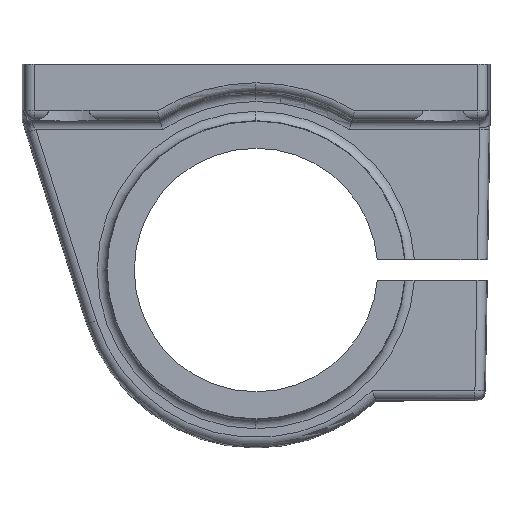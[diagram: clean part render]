
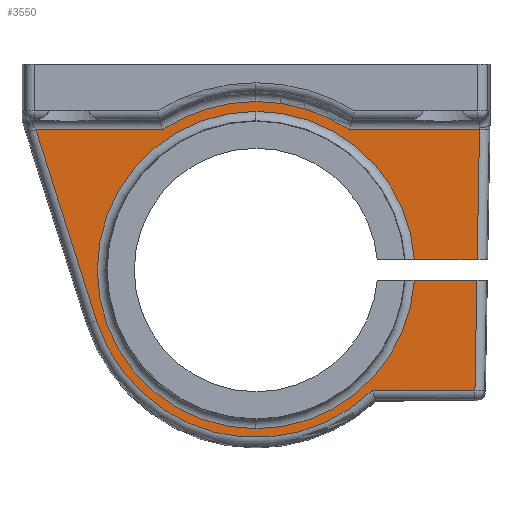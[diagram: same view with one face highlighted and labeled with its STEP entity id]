
A CAD part, front view. The second image highlights one B-rep face of the part: STEP entity #3550.
In plain terms, the highlighted planar face has unit normal (0, -1, 0).
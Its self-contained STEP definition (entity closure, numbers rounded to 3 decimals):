
#30 = ORIENTED_EDGE ( 'NONE', *, *, #1758, .T. ) ;
#142 = VERTEX_POINT ( 'NONE', #3945 ) ;
#166 = VERTEX_POINT ( 'NONE', #4265 ) ;
#184 = VERTEX_POINT ( 'NONE', #2930 ) ;
#207 = VECTOR ( 'NONE', #1421, 1000. ) ;
#218 = DIRECTION ( 'NONE',  ( 1., 0., 0. ) ) ;
#248 = ORIENTED_EDGE ( 'NONE', *, *, #1394, .T. ) ;
#355 = AXIS2_PLACEMENT_3D ( 'NONE', #3927, #1692, #1638 ) ;
#395 = ORIENTED_EDGE ( 'NONE', *, *, #2105, .T. ) ;
#410 = CARTESIAN_POINT ( 'NONE',  ( 0., -7.5, -20.5 ) ) ;
#412 = VERTEX_POINT ( 'NONE', #2650 ) ;
#422 = VECTOR ( 'NONE', #3233, 1000. ) ;
#429 = ORIENTED_EDGE ( 'NONE', *, *, #945, .T. ) ;
#466 = DIRECTION ( 'NONE',  ( 0., 1., 0. ) ) ;
#504 = CARTESIAN_POINT ( 'NONE',  ( 0., -7.5, -2.5 ) ) ;
#538 = EDGE_CURVE ( 'NONE', #184, #4074, #2052, .T. ) ;
#609 = CARTESIAN_POINT ( 'NONE',  ( 0., -7.5, -19.425 ) ) ;
#640 = LINE ( 'NONE', #1730, #207 ) ;
#648 = CARTESIAN_POINT ( 'NONE',  ( 0., -7.5, -20.5 ) ) ;
#748 = ORIENTED_EDGE ( 'NONE', *, *, #1121, .T. ) ;
#820 = CIRCLE ( 'NONE', #1132, 18. ) ;
#824 = VECTOR ( 'NONE', #4470, 1000. ) ;
#849 = FACE_OUTER_BOUND ( 'NONE', #2222, .T. ) ;
#890 = AXIS2_PLACEMENT_3D ( 'NONE', #410, #3044, #4570 ) ;
#945 = EDGE_CURVE ( 'NONE', #4074, #2839, #3477, .T. ) ;
#1067 = CARTESIAN_POINT ( 'NONE',  ( 9.95, -7.5, -5.5 ) ) ;
#1089 = EDGE_CURVE ( 'NONE', #1634, #4852, #4829, .T. ) ;
#1121 = EDGE_CURVE ( 'NONE', #2971, #184, #3243, .T. ) ;
#1132 = AXIS2_PLACEMENT_3D ( 'NONE', #2578, #2204, #4866 ) ;
#1180 = LINE ( 'NONE', #2672, #3425 ) ;
#1202 = VECTOR ( 'NONE', #1455, 1000. ) ;
#1212 = CARTESIAN_POINT ( 'NONE',  ( 0., -7.5, -20.5 ) ) ;
#1219 = EDGE_CURVE ( 'NONE', #3187, #2971, #2772, .T. ) ;
#1267 = CARTESIAN_POINT ( 'NONE',  ( 10.247, -7.5, -5.5 ) ) ;
#1283 = DIRECTION ( 'NONE',  ( 0., 1., 0. ) ) ;
#1321 = DIRECTION ( 'NONE',  ( -1., 0., 0. ) ) ;
#1394 = EDGE_CURVE ( 'NONE', #412, #2225, #3348, .T. ) ;
#1421 = DIRECTION ( 'NONE',  ( -1., 0., 0. ) ) ;
#1455 = DIRECTION ( 'NONE',  ( 1., 0., 0. ) ) ;
#1523 = EDGE_CURVE ( 'NONE', #2839, #1634, #820, .T. ) ;
#1566 = ORIENTED_EDGE ( 'NONE', *, *, #4409, .T. ) ;
#1634 = VERTEX_POINT ( 'NONE', #504 ) ;
#1638 = DIRECTION ( 'NONE',  ( 0., 0., 1. ) ) ;
#1649 = ORIENTED_EDGE ( 'NONE', *, *, #538, .T. ) ;
#1679 = CARTESIAN_POINT ( 'NONE',  ( 0., -7.5, -20.5 ) ) ;
#1692 = DIRECTION ( 'NONE',  ( 0., 1., 0. ) ) ;
#1716 = DIRECTION ( 'NONE',  ( 0., -1., 0. ) ) ;
#1730 = CARTESIAN_POINT ( 'NONE',  ( -24.859, -7.5, -5.5 ) ) ;
#1758 = EDGE_CURVE ( 'NONE', #4251, #3668, #1180, .T. ) ;
#1783 = CARTESIAN_POINT ( 'NONE',  ( 24.348, -7.5, -33.386 ) ) ;
#1813 = EDGE_CURVE ( 'NONE', #142, #166, #2214, .T. ) ;
#1832 = CIRCLE ( 'NONE', #3578, 17.886 ) ;
#1886 = CARTESIAN_POINT ( 'NONE',  ( 23.877, -7.5, -5.055 ) ) ;
#1898 = VECTOR ( 'NONE', #3485, 1000. ) ;
#1986 = AXIS2_PLACEMENT_3D ( 'NONE', #1679, #1283, #3517 ) ;
#2052 = LINE ( 'NONE', #3560, #422 ) ;
#2105 = EDGE_CURVE ( 'NONE', #2225, #4307, #3462, .T. ) ;
#2114 = DIRECTION ( 'NONE',  ( 0., -1., 0. ) ) ;
#2134 = CIRCLE ( 'NONE', #2213, 16.948 ) ;
#2204 = DIRECTION ( 'NONE',  ( 0., -1., 0. ) ) ;
#2213 = AXIS2_PLACEMENT_3D ( 'NONE', #1212, #466, #3498 ) ;
#2214 = CIRCLE ( 'NONE', #1986, 16.948 ) ;
#2222 = EDGE_LOOP ( 'NONE', ( #3395, #2928, #4188, #748, #1649, #429, #2986, #2613, #1566, #30, #2794, #248, #395, #4558 ) ) ;
#2225 = VERTEX_POINT ( 'NONE', #4656 ) ;
#2445 = VECTOR ( 'NONE', #1321, 1000. ) ;
#2510 = DIRECTION ( 'NONE',  ( 0., 0., 1. ) ) ;
#2578 = CARTESIAN_POINT ( 'NONE',  ( 0., -7.5, -20.5 ) ) ;
#2609 = CARTESIAN_POINT ( 'NONE',  ( 0., -7.5, -21.575 ) ) ;
#2613 = ORIENTED_EDGE ( 'NONE', *, *, #1089, .T. ) ;
#2650 = CARTESIAN_POINT ( 'NONE',  ( 12.404, -7.5, -33.386 ) ) ;
#2672 = CARTESIAN_POINT ( 'NONE',  ( -17.051, -7.5, -25.902 ) ) ;
#2690 = EDGE_CURVE ( 'NONE', #3668, #412, #1832, .T. ) ;
#2764 = PLANE ( 'NONE',  #355 ) ;
#2772 = CIRCLE ( 'NONE', #890, 16.948 ) ;
#2794 = ORIENTED_EDGE ( 'NONE', *, *, #2690, .T. ) ;
#2811 = CARTESIAN_POINT ( 'NONE',  ( 23.588, -7.5, -21.575 ) ) ;
#2839 = VERTEX_POINT ( 'NONE', #1067 ) ;
#2928 = ORIENTED_EDGE ( 'NONE', *, *, #2949, .T. ) ;
#2930 = CARTESIAN_POINT ( 'NONE',  ( 23.626, -7.5, -19.425 ) ) ;
#2949 = EDGE_CURVE ( 'NONE', #166, #3187, #2134, .T. ) ;
#2971 = VERTEX_POINT ( 'NONE', #4222 ) ;
#2986 = ORIENTED_EDGE ( 'NONE', *, *, #1523, .T. ) ;
#3044 = DIRECTION ( 'NONE',  ( 0., 1., 0. ) ) ;
#3187 = VERTEX_POINT ( 'NONE', #4215 ) ;
#3233 = DIRECTION ( 'NONE',  ( 0.017, 0., 1. ) ) ;
#3243 = LINE ( 'NONE', #609, #3506 ) ;
#3292 = CARTESIAN_POINT ( 'NONE',  ( -17.051, -7.5, -25.902 ) ) ;
#3316 = CARTESIAN_POINT ( 'NONE',  ( 0., -7.5, -20.5 ) ) ;
#3332 = EDGE_CURVE ( 'NONE', #4307, #142, #4572, .T. ) ;
#3348 = LINE ( 'NONE', #1783, #1202 ) ;
#3395 = ORIENTED_EDGE ( 'NONE', *, *, #1813, .T. ) ;
#3425 = VECTOR ( 'NONE', #4192, 1000. ) ;
#3462 = LINE ( 'NONE', #1886, #1898 ) ;
#3477 = LINE ( 'NONE', #1267, #2445 ) ;
#3485 = DIRECTION ( 'NONE',  ( 0.017, 0., 1. ) ) ;
#3498 = DIRECTION ( 'NONE',  ( 0., 0., 1. ) ) ;
#3506 = VECTOR ( 'NONE', #218, 1000. ) ;
#3517 = DIRECTION ( 'NONE',  ( 0., 0., 1. ) ) ;
#3550 = ADVANCED_FACE ( 'NONE', ( #849 ), #2764, .F. ) ;
#3560 = CARTESIAN_POINT ( 'NONE',  ( 23.877, -7.5, -5.055 ) ) ;
#3566 = CARTESIAN_POINT ( 'NONE',  ( -23.515, -7.5, -5.5 ) ) ;
#3578 = AXIS2_PLACEMENT_3D ( 'NONE', #3316, #2114, #2510 ) ;
#3668 = VERTEX_POINT ( 'NONE', #3292 ) ;
#3688 = CARTESIAN_POINT ( 'NONE',  ( 23.869, -7.5, -5.5 ) ) ;
#3927 = CARTESIAN_POINT ( 'NONE',  ( 0., -7.5, -20.5 ) ) ;
#3945 = CARTESIAN_POINT ( 'NONE',  ( 16.914, -7.5, -21.575 ) ) ;
#3951 = DIRECTION ( 'NONE',  ( 0., 0., 1. ) ) ;
#4074 = VERTEX_POINT ( 'NONE', #3688 ) ;
#4188 = ORIENTED_EDGE ( 'NONE', *, *, #1219, .T. ) ;
#4192 = DIRECTION ( 'NONE',  ( 0.302, 0., -0.953 ) ) ;
#4215 = CARTESIAN_POINT ( 'NONE',  ( 0., -7.5, -3.552 ) ) ;
#4222 = CARTESIAN_POINT ( 'NONE',  ( 16.914, -7.5, -19.425 ) ) ;
#4251 = VERTEX_POINT ( 'NONE', #3566 ) ;
#4265 = CARTESIAN_POINT ( 'NONE',  ( 0., -7.5, -37.448 ) ) ;
#4307 = VERTEX_POINT ( 'NONE', #2811 ) ;
#4409 = EDGE_CURVE ( 'NONE', #4852, #4251, #640, .T. ) ;
#4434 = AXIS2_PLACEMENT_3D ( 'NONE', #648, #1716, #3951 ) ;
#4470 = DIRECTION ( 'NONE',  ( -1., 0., 0. ) ) ;
#4558 = ORIENTED_EDGE ( 'NONE', *, *, #3332, .T. ) ;
#4570 = DIRECTION ( 'NONE',  ( 0., 0., 1. ) ) ;
#4572 = LINE ( 'NONE', #2609, #824 ) ;
#4576 = CARTESIAN_POINT ( 'NONE',  ( -9.95, -7.5, -5.5 ) ) ;
#4656 = CARTESIAN_POINT ( 'NONE',  ( 23.382, -7.5, -33.386 ) ) ;
#4829 = CIRCLE ( 'NONE', #4434, 18. ) ;
#4852 = VERTEX_POINT ( 'NONE', #4576 ) ;
#4866 = DIRECTION ( 'NONE',  ( 0., 0., 1. ) ) ;
